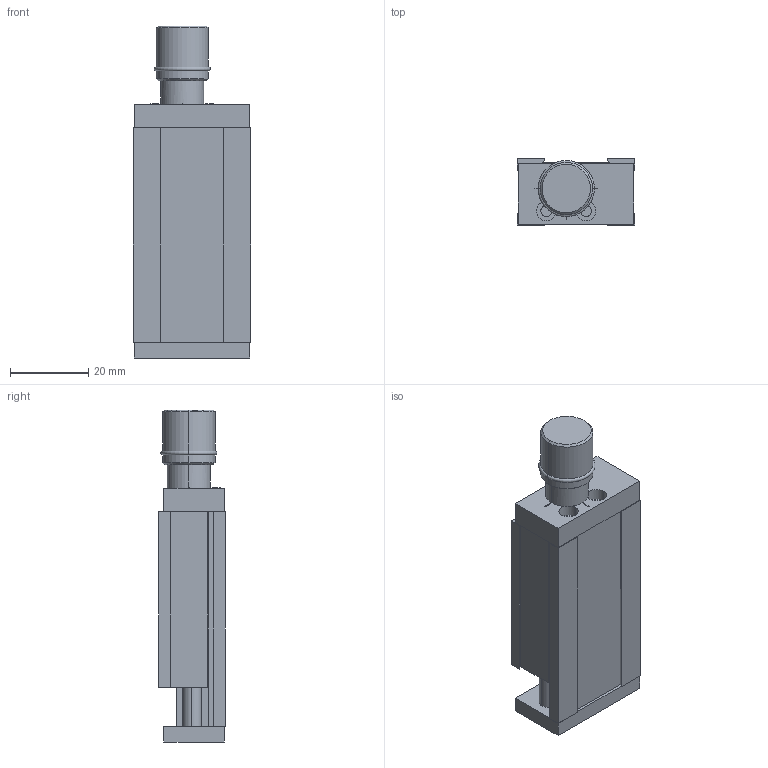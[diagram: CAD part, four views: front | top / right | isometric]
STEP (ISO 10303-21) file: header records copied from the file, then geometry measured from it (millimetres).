
FILE_DESCRIPTION (( 'STEP AP203' ), '1' );
FILE_NAME ('domiLINE 30 Hub 10.STEP', '2004-08-13T07:28:54', ( '' ), ( '' ), 'SwSTEP 2.0', 'SolidWorks 2004073', '' );
FILE_SCHEMA (( 'CONFIG_CONTROL_DESIGN' ));
Length unit declared in the file: millimetre
Products named in the file (3): domiLINE 30 Hub 10; Aussen 30 lght-+-D007617_ _Standard; Innenteil 30-+-D007616_ _L=55
Assembly tree (2 placements, depth 2):
  domiLINE 30 Hub 10
    Aussen 30 lght-+-D007617_ _Standard
    Innenteil 30-+-D007616_ _L=55
Bounding box: 30 x 17 x 85 mm (x, y, z)
Volume: 26467.1 mm3; surface area: 17685.6 mm2
Topology: 2 solids, 3 shells, 156 faces, 394 edges, 256 vertices
Faces by surface type: plane 102, cylinder 48, cone 4, torus 2
Entity records: 5003 total; most frequent: DIRECTION 826, CARTESIAN_POINT 811, ORIENTED_EDGE 788, EDGE_CURVE 394, VECTOR 284, LINE 284, AXIS2_PLACEMENT_3D 271, VERTEX_POINT 256
